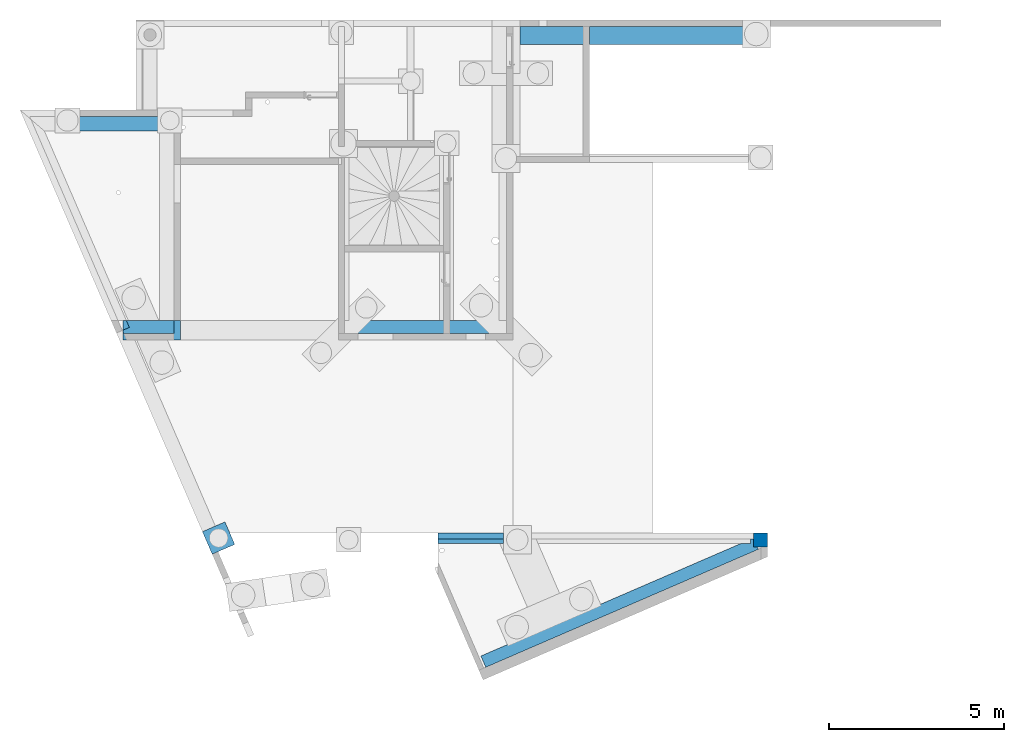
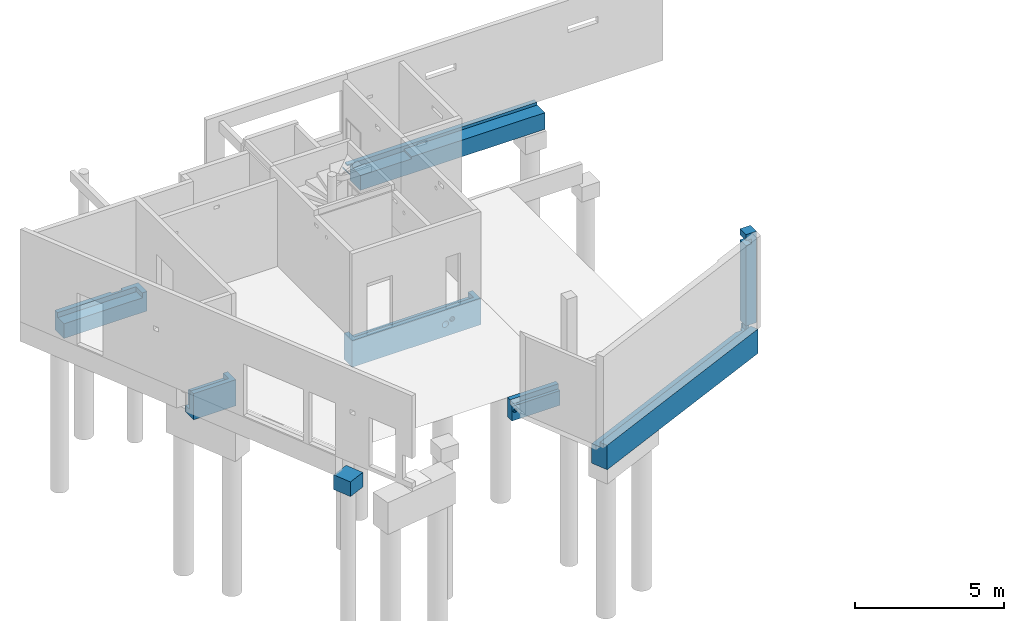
# One storey, part 8 of 29: 6 beams, 1 column, 1 slab.
"""IFC2X3 building model written with IfcOpenShell, lengths in centimetres."""

from ifc_helpers import new_model, entity, si_unit, converted_unit, derived_unit, direction, frame, origin, place, context, subcontext, project, spatial, faceted_brep, source, transform, mapped, material, type_object, type_shapes, element, save


model = new_model("IFC2X3")

# Units and contexts
model_context = context("Model", 3, precision=0.001, world=origin(), true_north=direction((6.12303176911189e-17, 1.0)))
body_context = subcontext(model_context, "Body", "Model", "MODEL_VIEW")
ifc_project = project(units=[si_unit("LENGTHUNIT", "METRE", prefix="CENTI"), si_unit("AREAUNIT", "SQUARE_METRE"), si_unit("VOLUMEUNIT", "CUBIC_METRE"), converted_unit("PLANEANGLEUNIT", "DEGREE", entity("IfcRatioMeasure", 0.0174532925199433), si_unit("PLANEANGLEUNIT", "RADIAN"), dimensions=[0, 0, 0, 0, 0, 0, 0]), si_unit("MASSUNIT", "GRAM", prefix="KILO"), derived_unit("MASSDENSITYUNIT", [(si_unit("MASSUNIT", "GRAM", prefix="KILO"), 1), (si_unit("LENGTHUNIT", "METRE"), -3)]), si_unit("TIMEUNIT", "SECOND"), si_unit("FREQUENCYUNIT", "HERTZ"), si_unit("THERMODYNAMICTEMPERATUREUNIT", "DEGREE_CELSIUS"), derived_unit("THERMALTRANSMITTANCEUNIT", [(si_unit("MASSUNIT", "GRAM", prefix="KILO"), 1), (si_unit("THERMODYNAMICTEMPERATUREUNIT", "KELVIN"), -1), (si_unit("TIMEUNIT", "SECOND"), -3)]), derived_unit("VOLUMETRICFLOWRATEUNIT", [(si_unit("LENGTHUNIT", "METRE"), 3), (si_unit("TIMEUNIT", "SECOND"), -1)]), si_unit("ELECTRICCURRENTUNIT", "AMPERE"), si_unit("ELECTRICVOLTAGEUNIT", "VOLT"), si_unit("POWERUNIT", "WATT"), si_unit("FORCEUNIT", "NEWTON"), si_unit("ILLUMINANCEUNIT", "LUX"), si_unit("LUMINOUSFLUXUNIT", "LUMEN"), si_unit("LUMINOUSINTENSITYUNIT", "CANDELA"), derived_unit("USERDEFINED", [(si_unit("MASSUNIT", "GRAM", prefix="KILO"), -1), (si_unit("LENGTHUNIT", "METRE"), -2), (si_unit("TIMEUNIT", "SECOND"), 3), (si_unit("LUMINOUSFLUXUNIT", "LUMEN"), 1)]), derived_unit("LINEARVELOCITYUNIT", [(si_unit("LENGTHUNIT", "METRE"), 1), (si_unit("TIMEUNIT", "SECOND"), -1)]), si_unit("PRESSUREUNIT", "PASCAL"), derived_unit("USERDEFINED", [(si_unit("LENGTHUNIT", "METRE"), -2), (si_unit("MASSUNIT", "GRAM", prefix="KILO"), 1), (si_unit("TIMEUNIT", "SECOND"), -2)])], contexts=[model_context])

# Site, building, storey
site_placement = place(None, origin())
site = spatial("IfcSite", under=ifc_project, at=site_placement, Name="Default", CompositionType="ELEMENT")
building_placement = place(site_placement, origin())
building = spatial("IfcBuilding", under=site, at=building_placement, Name="CAGE 03", CompositionType="ELEMENT")
storey_placement = place(building_placement, frame((0.0, 0.0, -34.0)))
storey = spatial("IfcBuildingStorey", under=building, at=storey_placement, Name="+3.66", CompositionType="ELEMENT", Elevation=-34.0000000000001)

# Column
ifc_material = material(Name="Béton, C25/30")
column_type = type_object("IfcColumnType", Name="40x40", PredefinedType="COLUMN", material=ifc_material)
shared_shape_1 = source(origin(), body_context, "Body", "Brep", [
    faceted_brep([(0.0, 0.0, 374.0), (22.0, 0.0, 374.0), (40.0, 0.0, 374.0), (40.0, 40.0, 374.0), (0.0, 40.0, 374.0), (0.0, 0.0, 349.0), (22.0, 0.0, 349.0), (22.0, 0.0, 329.0), (0.0, 0.0, 329.0), (0.0, 0.0, 274.0), (22.0, 0.0, 274.0), (40.0, 0.0, 274.0), (40.0, 40.0, 274.0), (0.0, 40.0, 274.0), (0.0, 40.0, 329.0), (22.0, 40.0, 329.0), (22.0, 40.0, 349.0), (0.0, 40.0, 349.0)], [[[0, 1, 2, 3, 4]], [[2, 1, 0, 5, 6, 7, 8, 9, 10, 11]], [[3, 2, 11, 12]], [[4, 3, 12, 13, 14, 15, 16, 17]], [[0, 4, 17, 5]], [[11, 10, 9, 13, 12]], [[7, 15, 14, 8]], [[16, 6, 5, 17]], [[15, 7, 6, 16]], [[13, 9, 8, 14]]]),
    faceted_brep([(0.0, 40.0, 0.0), (40.0, 40.0, 0.0), (40.0, 0.0, 0.0), (22.0, 0.0, 0.0), (10.8171184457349, 0.0, 0.0), (0.0, 0.0, 0.0), (0.0, 22.0, 0.0), (0.0, 40.0, 274.0), (40.0, 40.0, 274.0), (0.0, 40.0, 50.0), (40.0, 0.0, 274.0), (0.0, 0.0, 274.0)], [[[0, 1, 2, 3, 4, 5, 6]], [[7, 8, 1, 0, 9]], [[8, 10, 2, 1]], [[10, 11, 5, 4, 3, 2]], [[11, 7, 9, 0, 6, 5]], [[7, 11, 10, 8]]]),
])
type_shapes(column_type, [shared_shape_1])
column_placement = place(storey_placement, frame((4838.36582014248, 3791.66066607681, 0.0)))
element("IfcColumn", 1, at=column_placement, inside=storey, type_object=column_type, material=ifc_material, Name="BBGO-Poteau rect:40x40", ObjectType="40x40", context=body_context, shape_type="MappedRepresentation", body=[
    mapped(shared_shape_1, transform((0.0, 0.0, 0.0), scale=1.0)),
])

# Beams
beam_type_1 = type_object("IfcBeamType", Name="70x80ht", PredefinedType="BEAM", material=ifc_material)
shared_shape_2 = source(origin(), body_context, "Body", "Brep", [
    faceted_brep([(754.0, 0.0, 0.0), (754.0, 70.0, 0.0), (754.0, 70.0, 8.0), (754.0, 70.0, 80.0), (754.0, 52.0, 80.0), (754.0, 52.0, 68.0), (754.0, 0.0, 68.0), (754.0, 0.0, 8.0), (40.0, 0.0, 0.0), (40.0, 70.0, 0.0), (674.0, 70.0, 0.0), (40.0, 70.0, 75.0), (20.0, 70.0, 75.0), (20.0, 70.0, 80.0), (20.0, 52.0, 80.0), (238.0, 52.0, 80.0), (238.0, 0.0, 68.0), (238.0, 52.0, 68.0), (238.0, 0.0, 60.0), (238.0, 52.0, 60.0), (40.0, 52.0, 60.0), (40.0, 0.0, 60.0), (20.0, 52.0, 75.0), (40.0, 52.0, 75.0)], [[[0, 1, 2, 3, 4, 5, 6, 7]], [[1, 0, 8, 9, 10]], [[3, 2, 1, 10, 9, 11, 12, 13]], [[4, 3, 13, 14, 15]], [[16, 6, 5, 17]], [[18, 19, 20, 21]], [[19, 18, 16, 17]], [[17, 5, 4, 15, 14, 22, 23, 20, 19]], [[13, 12, 22, 14]], [[6, 16, 18, 21, 8, 0, 7]], [[23, 11, 9, 8, 21, 20]], [[11, 23, 22, 12]]]),
    faceted_brep([(2.0, 0.0, 80.0), (0.0, 0.0, 80.0), (0.0, 0.0, 75.0), (2.0, 0.0, 75.0), (0.0, 52.0, 80.0), (0.0, 52.0, 75.0), (2.0, 52.0, 80.0), (2.0, 52.0, 75.0), (2.0, 30.0, 80.0)], [[[0, 1, 2, 3]], [[1, 4, 5, 2]], [[5, 4, 6, 7]], [[4, 1, 0, 8, 6]], [[7, 6, 8, 0, 3]], [[2, 5, 7, 3]]]),
])
type_shapes(beam_type_1, [shared_shape_2])
beam_1_placement = place(storey_placement, frame((4132.36582014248, 5223.66066607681, -80.0)))
element("IfcBeam", 2, at=beam_1_placement, inside=storey, type_object=beam_type_1, material=ifc_material, Name="BBGO-Poutre rect:70x80ht", ObjectType="70x80ht", context=body_context, shape_type="MappedRepresentation", body=[
    mapped(shared_shape_2, transform((0.0, 0.0, 0.0), scale=1.0)),
])
beam_type_2 = type_object("IfcBeamType", Name="BBGO-Poutre rect:60x80ht", PredefinedType="BEAM")
beam_2_placement = place(storey_placement, frame((2882.36582014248, 4977.16066607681, -85.0)))
element("IfcBeam", 3, at=beam_2_placement, inside=storey, type_object=beam_type_2, material=ifc_material, Name="BBGO-Poutre rect:60x80ht", ObjectType="BBGO-Poutre rect:60x80ht", context=body_context, shape_type="Brep", body=[
    faceted_brep([(322.0, 0.0, 0.0), (322.0, 60.0, 0.0), (322.0, 60.0, 60.0), (322.0, 60.0, 80.0), (322.0, 0.0, 80.0), (322.0, 0.0, 60.0), (0.0, 0.0, 0.0), (262.0, 0.0, 0.0), (304.0, 0.0, 80.0), (304.0, 0.0, 60.0), (262.0, 0.0, 60.0), (0.0, 0.0, 60.0), (0.0, 60.0, 0.0), (215.0, 60.0, 0.0), (215.0, 51.0, 0.0), (255.0, 51.0, 0.0), (255.0, 60.0, 0.0), (255.0, 60.0, 60.0), (255.0, 60.0, 80.0), (304.0, 60.0, 80.0), (255.0, 51.0, 80.0), (215.0, 51.0, 80.0), (215.0, 60.0, 80.0), (195.0, 60.0, 80.0), (0.0, 60.0, 80.0), (0.0, 42.0, 80.0), (304.0, 42.0, 80.0), (304.0, 42.0, 60.0), (0.0, 42.0, 60.0), (215.0, 60.0, 60.0)], [[[0, 1, 2, 3, 4, 5]], [[6, 7, 0, 5, 4, 8, 9, 10, 11]], [[1, 0, 7, 6, 12, 13, 14, 15, 16]], [[2, 1, 16, 17, 18, 19, 3]], [[4, 3, 19, 18, 20, 21, 22, 23, 24, 25, 26, 8]], [[27, 28, 11, 10, 9]], [[26, 27, 9, 8]], [[27, 26, 25, 28]], [[14, 21, 20, 15]], [[15, 20, 18, 17, 16]], [[21, 14, 13, 29, 22]], [[24, 23, 22, 29, 13, 12]], [[24, 12, 6, 11, 28, 25]]]),
])
beam_type_3 = type_object("IfcBeamType", Name="BBGO-Poutre rect:55x107ht", PredefinedType="BEAM")
beam_3_placement = place(storey_placement, frame((3040.34426430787, 4381.66066607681, -112.0)))
element("IfcBeam", 4, at=beam_3_placement, inside=storey, type_object=beam_type_3, material=ifc_material, Name="BBGO-Poutre rect:55x107ht", ObjectType="BBGO-Poutre rect:55x107ht", context=body_context, shape_type="Brep", body=[
    faceted_brep([(0.0, 55.0, 0.0), (0.0, 0.0, 0.0), (0.0, 0.0, 27.0), (0.0, 0.0, 107.0), (0.0, 22.6639612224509, 107.0), (0.0, 22.6639612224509, 87.0), (0.0, 27.462482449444, 87.0), (0.0, 27.4624824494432, 27.0), (0.0, 55.0, 27.0), (164.021555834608, 0.0, 0.0), (164.021555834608, 0.0, 80.0), (164.021555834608, 0.0, 107.0), (146.021555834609, 0.0, 107.0), (33.7774281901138, 0.0, 107.0), (9.80635011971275, 0.0, 107.0), (164.021555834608, 55.0, 0.0), (9.97976760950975, 55.0, 27.0), (9.97976760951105, 55.0, 87.0), (104.021555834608, 55.0, 87.0), (146.021555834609, 55.0, 87.0), (146.021555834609, 55.0, 107.0), (164.021555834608, 55.0, 107.0), (164.021555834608, 55.0, 80.0), (164.021555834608, 55.0, 27.0), (146.021555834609, 18.0, 107.0), (2.0180248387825, 18.0, 107.0), (2.0180248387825, 18.0, 87.0), (146.021555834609, 18.0, 87.0), (18.4421618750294, 35.4421244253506, 87.0), (18.4421618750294, 35.4421244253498, 27.0)], [[[0, 1, 2, 3, 4, 5, 6, 7, 8]], [[3, 2, 1, 9, 10, 11, 12, 13, 14]], [[1, 0, 15, 9]], [[15, 0, 8, 16, 17, 18, 19, 20, 21, 22, 23]], [[3, 14, 13, 12, 11, 21, 20, 24, 25, 4]], [[26, 27, 19, 18, 17, 28, 6, 5]], [[27, 24, 20, 19]], [[27, 26, 25, 24]], [[25, 26, 5, 4]], [[11, 10, 9, 15, 23, 22, 21]], [[29, 28, 17, 16]], [[7, 29, 16, 8]], [[28, 29, 7, 6]]]),
])
beam_4_placement = place(storey_placement, frame((3654.36582014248, 4381.66066607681, -112.0)))
element("IfcBeam", 5, at=beam_4_placement, inside=storey, type_object=beam_type_3, material=ifc_material, Name="BBGO-Poutre rect:55x107ht", ObjectType="BBGO-Poutre rect:55x107ht", context=body_context, shape_type="Brep", body=[
    faceted_brep([(498.0, 18.0, 107.0), (498.0, 0.0, 107.0), (498.0, 0.0, 0.0), (498.0, 55.0, 0.0), (498.0, 55.0, 27.0), (498.0, 55.0, 107.0), (392.305478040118, 0.0, 70.9814729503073), (394.965922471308, 0.0, 68.7490950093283), (389.041959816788, 0.0, 72.169296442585), (396.702404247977, 0.0, 65.7414203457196), (397.305478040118, 0.0, 62.321218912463), (385.568996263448, 0.0, 72.169296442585), (0.0, 0.0, 107.0), (382.305478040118, 0.0, 70.9814729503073), (357.363350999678, 0.0, 61.5285884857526), (353.878747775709, 0.0, 59.75309446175), (351.113350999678, 0.0, 56.9876976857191), (349.337856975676, 0.0, 53.5030944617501), (0.0, 0.0, 80.0), (348.726063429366, 0.0, 49.6403820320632), (0.0, 0.0, 0.0), (349.337856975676, 0.0, 45.7776696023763), (351.113350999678, 0.0, 42.2930663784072), (353.878747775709, 0.0, 39.5276696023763), (357.363350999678, 0.0, 37.7521755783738), (361.226063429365, 0.0, 37.1403820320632), (361.226063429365, 0.0, 62.1403820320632), (379.645033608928, 0.0, 68.7490950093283), (365.088775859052, 0.0, 61.5285884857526), (377.908551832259, 0.0, 65.7414203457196), (368.573379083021, 0.0, 59.75309446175), (377.305478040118, 0.0, 62.3212189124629), (371.338775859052, 0.0, 56.9876976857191), (377.908551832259, 0.0, 58.9010174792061), (373.114269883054, 0.0, 53.50309446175), (379.645033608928, 0.0, 55.8933428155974), (373.726063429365, 0.0, 49.6403820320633), (382.305478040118, 0.0, 53.6609648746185), (373.114269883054, 0.0, 45.7776696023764), (385.568996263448, 0.0, 52.4731413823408), (371.338775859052, 0.0, 42.2930663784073), (389.041959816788, 0.0, 52.4731413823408), (368.573379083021, 0.0, 39.5276696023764), (392.305478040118, 0.0, 53.6609648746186), (365.088775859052, 0.0, 37.7521755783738), (394.965922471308, 0.0, 55.8933428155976), (396.702404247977, 0.0, 58.9010174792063), (0.0, 55.0, 0.0), (394.965922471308, 55.0, 55.8933428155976), (396.702404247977, 55.0, 58.9010174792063), (458.0, 55.0, 87.0), (480.0, 55.0, 87.0), (392.305478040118, 55.0, 53.6609648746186), (368.573379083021, 55.0, 39.5276696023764), (365.088775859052, 55.0, 37.7521755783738), (361.226063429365, 55.0, 37.1403820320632), (357.363350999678, 55.0, 37.7521755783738), (353.878747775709, 55.0, 39.5276696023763), (351.113350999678, 55.0, 42.2930663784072), (289.0, 55.0, 87.0), (30.0, 55.0, 87.0), (0.0, 55.0, 27.0), (18.0, 55.0, 87.0), (0.0, 55.0, 80.0), (0.0, 55.0, 107.0), (18.0, 55.0, 107.0), (349.337856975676, 55.0, 45.7776696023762), (348.726063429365, 55.0, 49.6403820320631), (329.0, 55.0, 87.0), (389.041959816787, 55.0, 72.169296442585), (385.568996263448, 55.0, 72.169296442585), (382.305478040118, 55.0, 70.9814729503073), (379.645033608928, 55.0, 68.7490950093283), (349.337856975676, 55.0, 53.5030944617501), (361.226063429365, 55.0, 62.1403820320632), (357.363350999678, 55.0, 61.5285884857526), (353.878747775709, 55.0, 59.75309446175), (351.113350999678, 55.0, 56.9876976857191), (389.041959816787, 55.0, 52.4731413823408), (371.338775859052, 55.0, 42.2930663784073), (385.568996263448, 55.0, 52.4731413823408), (373.114269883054, 55.0, 45.7776696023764), (382.305478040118, 55.0, 53.6609648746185), (373.726063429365, 55.0, 49.6403820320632), (379.645033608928, 55.0, 55.8933428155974), (373.114269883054, 55.0, 53.50309446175), (377.908551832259, 55.0, 58.9010174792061), (371.338775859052, 55.0, 56.9876976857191), (377.305478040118, 55.0, 62.3212189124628), (368.573379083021, 55.0, 59.75309446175), (377.908551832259, 55.0, 65.7414203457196), (365.088775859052, 55.0, 61.5285884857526), (397.305478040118, 55.0, 62.3212189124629), (396.702404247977, 55.0, 65.7414203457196), (394.965922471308, 55.0, 68.7490950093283), (392.305478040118, 55.0, 70.9814729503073), (480.0, 55.0, 107.0), (480.0, 18.0, 107.0), (18.0, 18.0, 107.0), (0.0, 18.0, 107.0), (480.0, 18.0, 87.0), (18.0, 18.0, 87.0)], [[[0, 1, 2, 3, 4, 5]], [[1, 6, 7]], [[6, 1, 8]], [[7, 9, 1]], [[9, 10, 1]], [[1, 10, 2]], [[11, 8, 1]], [[1, 12, 11]], [[11, 12, 13]], [[13, 12, 14]], [[15, 14, 12]], [[16, 15, 12]], [[17, 16, 12]], [[17, 12, 18]], [[18, 19, 17]], [[19, 18, 20]], [[21, 19, 20]], [[22, 21, 20]], [[20, 23, 22]], [[24, 23, 20]], [[20, 2, 24]], [[24, 2, 25]], [[14, 26, 13]], [[27, 13, 26]], [[26, 28, 27]], [[29, 27, 28]], [[28, 30, 29]], [[31, 29, 30]], [[30, 32, 31]], [[32, 33, 31]], [[32, 34, 33]], [[34, 35, 33]], [[36, 35, 34]], [[36, 37, 35]], [[37, 36, 38]], [[38, 39, 37]], [[38, 40, 39]], [[41, 39, 40]], [[40, 42, 41]], [[42, 2, 43]], [[41, 42, 43]], [[42, 44, 2]], [[44, 25, 2]], [[43, 2, 45]], [[46, 2, 10]], [[46, 45, 2]], [[3, 2, 20, 47]], [[4, 3, 48]], [[48, 49, 4]], [[4, 49, 50]], [[50, 51, 4]], [[51, 5, 4]], [[52, 48, 3]], [[53, 52, 3]], [[54, 53, 3]], [[55, 54, 3]], [[55, 3, 56]], [[3, 47, 56]], [[47, 57, 56]], [[58, 57, 47]], [[47, 59, 58]], [[60, 59, 47]], [[61, 60, 47]], [[60, 61, 62]], [[63, 62, 61]], [[62, 63, 64]], [[64, 65, 62]], [[59, 66, 58]], [[67, 66, 59]], [[59, 68, 67]], [[50, 69, 68]], [[68, 69, 70]], [[68, 70, 71]], [[72, 68, 71]], [[68, 73, 67]], [[74, 68, 72]], [[74, 75, 68]], [[76, 68, 75]], [[76, 77, 68]], [[73, 68, 77]], [[78, 52, 53]], [[53, 79, 78]], [[79, 80, 78]], [[79, 81, 80]], [[82, 80, 81]], [[82, 81, 83]], [[84, 82, 83]], [[83, 85, 84]], [[86, 84, 85]], [[85, 87, 86]], [[87, 88, 86]], [[87, 89, 88]], [[88, 89, 90]], [[91, 90, 89]], [[72, 90, 91]], [[74, 72, 91]], [[50, 49, 92]], [[50, 92, 93]], [[50, 93, 94]], [[94, 95, 50]], [[95, 69, 50]], [[5, 51, 96]], [[5, 96, 97, 98, 65, 64, 99, 12, 1, 0]], [[100, 51, 50, 68, 59, 60, 62, 101]], [[97, 100, 101, 98]], [[65, 98, 101, 62]], [[96, 51, 100, 97]], [[61, 47, 20, 18, 12, 99, 64, 63]], [[58, 66, 21, 22]], [[56, 57, 23, 24]], [[22, 23, 57, 58]], [[55, 56, 24, 25]], [[67, 19, 21, 66]], [[53, 54, 44, 42]], [[81, 79, 40, 38]], [[42, 40, 79, 53]], [[83, 81, 38, 36]], [[25, 44, 54, 55]], [[91, 89, 30, 28]], [[87, 32, 30, 89]], [[91, 28, 26, 74]], [[34, 85, 83, 36]], [[34, 32, 87, 85]], [[76, 75, 14, 15]], [[73, 77, 16, 17]], [[15, 16, 77, 76]], [[67, 73, 17, 19]], [[26, 14, 75, 74]], [[86, 88, 31, 33]], [[82, 84, 35, 37]], [[33, 35, 84, 86]], [[80, 82, 37, 39]], [[39, 41, 78, 80]], [[52, 78, 41, 43]], [[49, 48, 45, 46]], [[43, 45, 48, 52]], [[92, 49, 46, 10]], [[9, 93, 92, 10]], [[95, 94, 7, 6]], [[93, 9, 7, 94]], [[69, 95, 6, 8]], [[8, 11, 70, 69]], [[71, 70, 11, 13]], [[90, 72, 27, 29]], [[13, 27, 72, 71]], [[88, 90, 29, 31]]]),
])
beam_type_4 = type_object("IfcBeamType", Name="BBGO-Poutre rect:30x80ht", PredefinedType="BEAM")
beam_5_placement = place(storey_placement, frame((3938.36582014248, 3801.66066607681, -80.0)))
element("IfcBeam", 6, at=beam_5_placement, inside=storey, type_object=beam_type_4, material=ifc_material, Name="BBGO-Poutre rect:30x80ht", ObjectType="BBGO-Poutre rect:30x80ht", context=body_context, shape_type="Brep", body=[
    faceted_brep([(186.499999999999, 12.0, 60.0), (186.499999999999, 0.0, 60.0), (186.499999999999, 0.0, 0.0), (186.499999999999, 30.0, 0.0), (186.499999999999, 30.0, 80.0), (186.499999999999, 12.0, 80.0), (0.0, 30.0, 0.0), (0.0, 0.0, 0.0), (0.0, 0.0, 60.0), (0.0, 12.0, 60.0), (0.0, 15.0, 60.0), (0.0, 15.0, 80.0), (0.0, 30.0, 80.0), (176.347124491, 0.0, 0.0), (176.347124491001, 0.0, 60.0), (19.6665505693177, 0.0, 38.896109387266), (19.3847965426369, 0.0, 37.4796362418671), (19.0575868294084, 0.0, 35.8346419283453), (18.190495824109, 0.0, 34.5369485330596), (17.3234048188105, 0.0, 33.2392551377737), (19.362068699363, 0.0, 40.4268431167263), (19.0575868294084, 0.0, 41.9575768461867), (18.190495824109, 0.0, 43.2552702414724), (17.3234048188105, 0.0, 44.5529636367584), (3.66655056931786, 0.0, 38.896109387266), (3.9483045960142, 0.0, 40.3125825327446), (16.0257114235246, 0.0, 45.4200546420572), (14.7280180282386, 0.0, 46.2871456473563), (4.27551430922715, 0.0, 41.9575768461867), (5.14260531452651, 0.0, 43.2552702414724), (6.00969631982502, 0.0, 44.5529636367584), (7.30738971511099, 0.0, 45.4200546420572), (8.60508311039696, 0.0, 46.2871456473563), (10.1358168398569, 0.0, 46.5916275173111), (11.6665505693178, 0.0, 46.896109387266), (13.1972842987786, 0.0, 46.5916275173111), (16.0257114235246, 0.0, 32.3721641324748), (14.7280180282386, 0.0, 31.5050731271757), (13.1972842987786, 0.0, 31.2005912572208), (11.6665505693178, 0.0, 30.896109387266), (10.1358168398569, 0.0, 31.2005912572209), (8.60508311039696, 0.0, 31.5050731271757), (7.30738971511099, 0.0, 32.3721641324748), (6.00969631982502, 0.0, 33.2392551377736), (5.14260531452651, 0.0, 34.5369485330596), (4.27551430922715, 0.0, 35.8346419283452), (3.9710324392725, 0.0, 37.3653756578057), (163.366582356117, 30.0, 0.0), (19.0575868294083, 30.0, 41.9575768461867), (18.1904958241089, 30.0, 43.2552702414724), (17.3234048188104, 30.0, 44.5529636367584), (19.3847965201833, 30.0, 40.3125826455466), (19.6665505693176, 30.0, 38.896109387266), (19.3620686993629, 30.0, 37.3653756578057), (19.0575868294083, 30.0, 35.8346419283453), (18.1904958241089, 30.0, 34.5369485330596), (17.3234048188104, 30.0, 33.2392551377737), (3.66655056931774, 30.0, 38.8961093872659), (3.97103243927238, 30.0, 37.3653756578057), (16.0257114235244, 30.0, 32.3721641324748), (14.7280180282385, 30.0, 31.5050731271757), (4.27551430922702, 30.0, 35.8346419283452), (5.14260531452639, 30.0, 34.5369485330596), (6.00969631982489, 30.0, 33.2392551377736), (7.30738971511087, 30.0, 32.3721641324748), (8.60508311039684, 30.0, 31.5050731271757), (10.1358168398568, 30.0, 31.2005912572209), (11.6665505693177, 30.0, 30.896109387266), (13.1972842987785, 30.0, 31.2005912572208), (16.0257114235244, 30.0, 45.4200546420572), (14.7280180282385, 30.0, 46.2871456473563), (13.1972842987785, 30.0, 46.5916275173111), (11.6665505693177, 30.0, 46.896109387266), (10.1358168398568, 30.0, 46.5916275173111), (8.60508311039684, 30.0, 46.2871456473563), (7.30738971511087, 30.0, 45.4200546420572), (6.00969631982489, 30.0, 44.5529636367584), (5.14260531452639, 30.0, 43.2552702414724), (4.27551430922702, 30.0, 41.9575768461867), (3.97103243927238, 30.0, 40.4268431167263), (0.103375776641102, 15.0, 80.0), (0.103375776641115, 12.0, 80.0), (0.103375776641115, 12.0, 60.0), (0.103375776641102, 15.0, 60.0)], [[[0, 1, 2, 3, 4, 5]], [[6, 7, 8, 9, 10, 11, 12]], [[13, 1, 14]], [[1, 13, 2]], [[13, 14, 15]], [[13, 15, 16]], [[13, 16, 17]], [[13, 17, 18]], [[13, 18, 19]], [[13, 19, 7]], [[14, 20, 15]], [[14, 21, 20]], [[14, 22, 21]], [[14, 23, 22]], [[23, 14, 8]], [[7, 24, 8]], [[8, 24, 25]], [[8, 26, 23]], [[8, 27, 26]], [[8, 25, 28]], [[8, 28, 29]], [[8, 29, 30]], [[8, 30, 31]], [[8, 31, 32]], [[8, 32, 33]], [[8, 33, 34]], [[8, 34, 35]], [[8, 35, 27]], [[7, 19, 36]], [[7, 36, 37]], [[7, 37, 38]], [[7, 38, 39]], [[7, 39, 40]], [[7, 40, 41]], [[7, 41, 42]], [[7, 42, 43]], [[7, 43, 44]], [[7, 44, 45]], [[7, 45, 46]], [[7, 46, 24]], [[3, 2, 13, 7, 6, 47]], [[4, 3, 47]], [[47, 48, 4]], [[4, 48, 49]], [[4, 49, 50]], [[4, 50, 12]], [[47, 51, 48]], [[47, 52, 51]], [[47, 53, 52]], [[47, 54, 53]], [[47, 55, 54]], [[47, 56, 55]], [[56, 47, 6]], [[12, 57, 6]], [[6, 57, 58]], [[6, 59, 56]], [[6, 60, 59]], [[6, 58, 61]], [[6, 61, 62]], [[6, 62, 63]], [[6, 63, 64]], [[6, 64, 65]], [[6, 65, 66]], [[6, 66, 67]], [[6, 67, 68]], [[6, 68, 60]], [[12, 50, 69]], [[12, 69, 70]], [[12, 70, 71]], [[12, 71, 72]], [[12, 72, 73]], [[12, 73, 74]], [[12, 74, 75]], [[12, 75, 76]], [[12, 76, 77]], [[12, 77, 78]], [[12, 78, 79]], [[12, 79, 57]], [[5, 4, 12, 11, 80, 81]], [[82, 83, 10, 9, 8, 14, 1, 0]], [[81, 82, 0, 5]], [[80, 83, 82, 81]], [[80, 11, 10, 83]], [[63, 62, 61, 45, 44, 43]], [[64, 63, 43, 42, 41, 65]], [[68, 67, 39, 38, 37, 60]], [[66, 65, 41, 40, 39, 67]], [[61, 58, 57, 24, 46, 45]], [[59, 60, 37, 36, 19, 56]], [[16, 15, 52, 53, 54, 17]], [[55, 56, 19, 18, 17, 54]], [[69, 50, 23, 26, 27, 70]], [[35, 34, 72, 71, 70, 27]], [[73, 72, 34, 33, 32, 74]], [[51, 52, 15, 20, 21, 48]], [[22, 23, 50, 49, 48, 21]], [[75, 74, 32, 31, 30, 76]], [[25, 24, 57, 79, 78, 28]], [[77, 76, 30, 29, 28, 78]]]),
])
beam_type_5 = type_object("IfcBeamType", Name="BBGO-Poutre rect:65x100ht", PredefinedType="BEAM")
beam_6_placement = place(storey_placement, frame((4060.93925311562, 3420.56002288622, -100.0), z_axis=(0.0, 0.0, 1.0), x_axis=(-0.917772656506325, -0.397106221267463, 0.0)))
element("IfcBeam", 7, at=beam_6_placement, inside=storey, type_object=beam_type_5, material=ifc_material, Name="BBGO-Poutre rect:65x100ht", ObjectType="BBGO-Poutre rect:65x100ht", context=body_context, shape_type="Brep", body=[
    faceted_brep([(-23.689460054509, -54.7499321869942, 0.0), (-23.6894600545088, 10.2500678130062, 0.0), (-23.6894600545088, 10.2500678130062, 100.0), (-23.689460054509, -19.7499321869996, 100.0), (-23.6894600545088, -19.7499321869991, 80.0), (-23.6894600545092, -54.7499321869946, 80.0), (-870.794875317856, 10.2500678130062, 0.0), (-870.794875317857, -54.7499321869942, 0.0), (-870.794875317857, -54.7499321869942, 6.0), (-870.794875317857, -54.7499321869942, 76.0), (-870.794875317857, -54.7499321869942, 100.0), (-870.794875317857, -27.5695517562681, 100.0), (-870.794875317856, -27.5695517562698, 80.0), (-870.794875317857, -25.4799503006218, 80.0), (-870.794875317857, -19.7499321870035, 80.0), (-870.794875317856, -19.7499321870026, 100.0), (-870.794875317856, 10.2500678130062, 100.0), (-870.794875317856, 10.2500678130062, 10.0), (-300.689460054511, -54.7499321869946, 0.0), (-200.68946005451, -54.7499321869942, 0.0), (-200.689460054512, -54.7499321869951, 80.0), (-300.689460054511, -54.7499321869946, 80.0), (-833.159076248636, -54.7499321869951, 80.0), (-833.159076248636, -54.7499321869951, 20.0), (-843.204422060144, -54.7499321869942, 20.0), (-860.775133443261, -54.7499321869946, 20.0), (-860.775133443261, -54.7499321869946, 76.0), (-860.775133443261, -54.7499321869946, 80.0), (-863.377691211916, -54.7499321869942, 80.0), (-863.377691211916, -54.7499321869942, 100.0), (-866.61570890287, 10.2500678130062, 100.0), (-856.420264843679, -44.6851708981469, 80.0), (-860.867219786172, -31.8650967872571, 80.0), (-869.603556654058, -52.0560952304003, 80.0), (-856.420264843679, -44.6851708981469, 20.0), (-860.867219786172, -31.8650967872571, 100.0), (-869.603556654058, -52.0560952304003, 100.0)], [[[0, 1, 2, 3, 4, 5]], [[6, 7, 8, 9, 10, 11, 12, 13, 14, 15, 16, 17]], [[10, 9, 8, 7, 18, 19, 0, 5, 20, 21, 22, 23, 24, 25, 26, 27, 28, 29]], [[1, 0, 19, 18, 7, 6]], [[2, 1, 6, 17, 16, 30]], [[2, 30, 16, 15, 3]], [[31, 22, 21, 20, 5, 4, 14, 13, 12, 32, 33, 28, 27]], [[3, 15, 14, 4]], [[34, 23, 22, 31]], [[23, 34, 25, 24]], [[25, 34, 31, 27, 26]], [[33, 32, 35, 36]], [[35, 32, 12, 11]], [[36, 35, 11, 10, 29]], [[33, 36, 29, 28]]]),
])

# Slab
slab_placement = place(storey_placement, frame((3267.11983636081, 3770.63990535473, -145.0)))
element("IfcSlab", 8, at=slab_placement, inside=storey, material=ifc_material, Name="M_Base-Rectangulaire:70x70x60ht", ObjectType="M_Base-Rectangulaire:70x70x60ht", PredefinedType="BASESLAB", context=body_context, shape_type="Brep", body=[
    faceted_brep([(64.2440859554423, 92.0415214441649, 60.0), (0.0, 64.2440859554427, 60.0), (2.8042674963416, 57.7629988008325, 60.0), (27.7974354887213, 0.0, 60.0), (92.0415214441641, 27.7974354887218, 60.0), (27.7974354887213, 0.0, 0.0), (28.2887996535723, 26.3274228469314, 0.0), (33.4142909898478, 24.6620497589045, 0.0), (38.5397823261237, 22.9966766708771, 0.0), (43.6652736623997, 21.3313035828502, 0.0), (48.7907649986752, 19.6659304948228, 0.0), (92.0415214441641, 27.7974354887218, 0.0), (26.0967899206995, 31.2507573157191, 0.0), (23.904780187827, 36.1740917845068, 0.0), (21.7127704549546, 41.0974262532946, 0.0), (19.5207607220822, 46.0207607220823, 0.0), (0.0, 64.2440859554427, 0.0), (22.0512855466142, 53.8089153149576, 0.0), (24.5818103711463, 61.5970699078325, 0.0), (29.2490468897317, 64.2917001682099, 0.0), (33.916283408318, 66.9863304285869, 0.0), (38.5835199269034, 69.6809606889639, 0.0), (43.2507564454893, 72.3755909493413, 0.0), (64.2440859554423, 92.0415214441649, 0.0), (72.5207607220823, 46.0207607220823, 0.0), (70.3287509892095, 50.94409519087, 0.0), (48.3762477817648, 70.7102178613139, 0.0), (53.5017391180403, 69.044844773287, 0.0), (58.6272304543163, 67.3794716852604, 0.0), (63.7527217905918, 65.7140985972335, 0.0), (68.136741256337, 55.8674296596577, 0.0), (65.9447315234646, 60.7907641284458, 0.0), (53.4580015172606, 22.3605607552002, 0.0), (58.1252380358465, 25.0551910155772, 0.0), (62.7924745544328, 27.7498212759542, 0.0), (67.4597110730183, 30.4444515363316, 0.0), (69.9902358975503, 38.2326061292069, 0.0), (19.5207607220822, 46.0207607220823, 5.0), (21.7127704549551, 50.94409519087, 5.0), (23.904780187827, 55.8674296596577, 5.0), (26.0967899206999, 60.7907641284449, 5.0), (28.2887996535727, 65.7140985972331, 5.0), (33.4142909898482, 67.37947168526, 5.0), (38.5397823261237, 69.044844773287, 5.0), (43.6652736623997, 70.7102178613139, 5.0), (48.7907649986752, 72.3755909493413, 5.0), (53.4580015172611, 69.6809606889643, 5.0), (58.1252380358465, 66.9863304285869, 5.0), (62.7924745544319, 64.2917001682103, 5.0), (67.4597110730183, 61.5970699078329, 5.0), (69.9902358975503, 53.8089153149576, 5.0), (72.5207607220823, 46.0207607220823, 5.0), (70.3287509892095, 41.0974262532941, 5.0), (68.136741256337, 36.1740917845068, 5.0), (65.9447315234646, 31.2507573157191, 5.0), (63.7527217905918, 26.327422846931, 5.0), (58.6272304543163, 24.6620497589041, 5.0), (53.5017391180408, 22.9966766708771, 5.0), (48.3762477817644, 21.3313035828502, 5.0), (43.2507564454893, 19.6659304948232, 5.0), (38.5835199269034, 22.3605607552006, 5.0), (33.9162834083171, 25.0551910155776, 5.0), (29.2490468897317, 27.7498212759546, 5.0), (24.5818103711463, 30.4444515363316, 5.0), (22.0512855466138, 38.2326061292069, 5.0)], [[[0, 1, 2, 3, 4]], [[5, 6, 7]], [[5, 7, 8]], [[5, 8, 9]], [[5, 9, 10]], [[5, 10, 11]], [[5, 12, 6]], [[5, 13, 12]], [[5, 14, 13]], [[5, 15, 14]], [[16, 15, 5]], [[16, 17, 15]], [[16, 18, 17]], [[16, 19, 18]], [[16, 20, 19]], [[16, 21, 20]], [[16, 22, 21]], [[23, 22, 16]], [[11, 24, 23]], [[23, 24, 25]], [[23, 26, 22]], [[23, 27, 26]], [[23, 28, 27]], [[23, 29, 28]], [[23, 25, 30]], [[23, 30, 31]], [[23, 31, 29]], [[11, 10, 32]], [[11, 32, 33]], [[11, 33, 34]], [[11, 34, 35]], [[11, 35, 36]], [[11, 36, 24]], [[2, 1, 16, 5, 3]], [[4, 3, 5, 11]], [[0, 4, 11, 23]], [[1, 0, 23, 16]], [[37, 38, 39, 40, 41, 42, 43, 44, 45, 46, 47, 48, 49, 50, 51, 52, 53, 54, 55, 56, 57, 58, 59, 60, 61, 62, 63, 64]], [[12, 13, 63]], [[64, 14, 37]], [[64, 63, 13]], [[63, 62, 12]], [[36, 35, 53]], [[60, 59, 8]], [[37, 14, 15]], [[33, 56, 34]], [[7, 6, 61]], [[35, 34, 55]], [[36, 52, 24]], [[8, 59, 9]], [[61, 6, 62]], [[13, 14, 64]], [[58, 9, 59]], [[62, 6, 12]], [[57, 56, 33]], [[7, 60, 8]], [[55, 34, 56]], [[54, 53, 35, 55]], [[58, 10, 9]], [[32, 10, 57, 33]], [[7, 61, 60]], [[51, 24, 52]], [[58, 57, 10]], [[36, 53, 52]], [[31, 30, 49]], [[50, 25, 51]], [[50, 49, 30]], [[49, 48, 31]], [[47, 29, 48]], [[46, 28, 47]], [[51, 25, 24]], [[22, 44, 21]], [[46, 45, 27]], [[40, 39, 18, 41]], [[17, 38, 15]], [[27, 45, 26]], [[30, 25, 50]], [[44, 22, 26]], [[48, 29, 31]], [[43, 42, 20]], [[28, 29, 47]], [[17, 18, 39]], [[46, 27, 28]], [[37, 15, 38]], [[43, 21, 44]], [[41, 19, 42]], [[20, 42, 19]], [[41, 18, 19]], [[44, 26, 45]], [[43, 20, 21]], [[17, 39, 38]]]),
])

save(model, "model.ifc")
